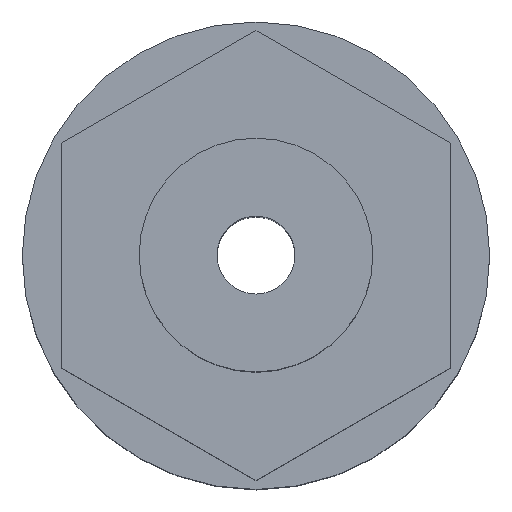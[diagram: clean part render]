
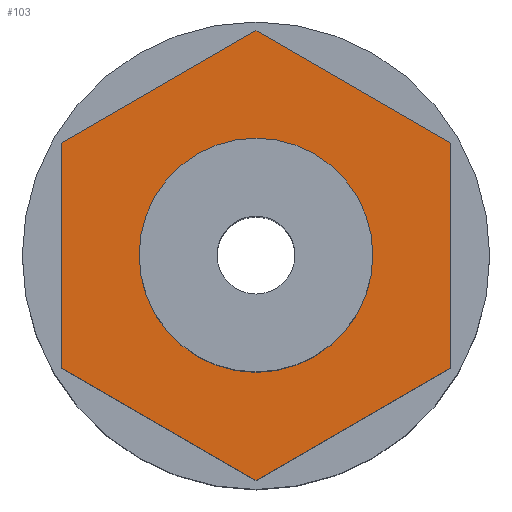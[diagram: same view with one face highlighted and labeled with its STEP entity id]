
A CAD part, top view. The second image highlights one B-rep face of the part: STEP entity #103.
In plain terms, the highlighted planar face has unit normal (0, 0, 1).
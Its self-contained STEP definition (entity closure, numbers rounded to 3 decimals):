
#103=ADVANCED_FACE('NONE',(#215,#216),#217,.T.);
#215=FACE_OUTER_BOUND('',#334,.T.);
#216=FACE_BOUND('',#335,.T.);
#217=PLANE('',#336);
#334=EDGE_LOOP('',(#565,#566,#567,#568,#569,#570));
#335=EDGE_LOOP('',(#571,#572));
#336=AXIS2_PLACEMENT_3D('',#573,#574,#575);
#565=ORIENTED_EDGE('',*,*,#725,.T.);
#566=ORIENTED_EDGE('',*,*,#729,.T.);
#567=ORIENTED_EDGE('',*,*,#732,.T.);
#568=ORIENTED_EDGE('',*,*,#735,.T.);
#569=ORIENTED_EDGE('',*,*,#738,.T.);
#570=ORIENTED_EDGE('',*,*,#740,.T.);
#571=ORIENTED_EDGE('',*,*,#742,.F.);
#572=ORIENTED_EDGE('',*,*,#743,.F.);
#573=CARTESIAN_POINT('',(0.,0.,0.));
#574=DIRECTION('',(0.0,0.0,1.0));
#575=DIRECTION('',(1.0,-0.0,0.0));
#725=EDGE_CURVE('NONE',#867,#865,#868,.T.);
#729=EDGE_CURVE('NONE',#865,#871,#873,.T.);
#732=EDGE_CURVE('NONE',#871,#875,#877,.T.);
#735=EDGE_CURVE('NONE',#875,#879,#881,.T.);
#738=EDGE_CURVE('NONE',#879,#883,#885,.T.);
#740=EDGE_CURVE('NONE',#883,#867,#887,.T.);
#742=EDGE_CURVE('NONE',#889,#890,#891,.T.);
#743=EDGE_CURVE('NONE',#890,#889,#892,.T.);
#865=VERTEX_POINT('NONE',#1052);
#867=VERTEX_POINT('NONE',#1055);
#868=LINE('',#1056,#1057);
#871=VERTEX_POINT('NONE',#1061);
#873=LINE('',#1064,#1065);
#875=VERTEX_POINT('NONE',#1067);
#877=LINE('',#1070,#1071);
#879=VERTEX_POINT('NONE',#1073);
#881=LINE('',#1076,#1077);
#883=VERTEX_POINT('NONE',#1079);
#885=LINE('',#1082,#1083);
#887=LINE('',#1085,#1086);
#889=VERTEX_POINT('NONE',#1088);
#890=VERTEX_POINT('NONE',#1089);
#891=CIRCLE('',#1090,1.5);
#892=CIRCLE('',#1091,1.5);
#1052=CARTESIAN_POINT('',(2.5,-1.443,0.));
#1055=CARTESIAN_POINT('',(0.,-2.887,0.));
#1056=CARTESIAN_POINT('',(0.,-2.887,0.));
#1057=VECTOR('',#1219,1000.0);
#1061=CARTESIAN_POINT('',(2.5,1.443,0.));
#1064=CARTESIAN_POINT('',(2.5,-1.443,0.));
#1065=VECTOR('',#1222,1000.0);
#1067=CARTESIAN_POINT('',(0.,2.887,0.));
#1070=CARTESIAN_POINT('',(2.5,1.443,0.));
#1071=VECTOR('',#1224,1000.0);
#1073=CARTESIAN_POINT('',(-2.5,1.443,0.));
#1076=CARTESIAN_POINT('',(0.,2.887,0.));
#1077=VECTOR('',#1226,1000.0);
#1079=CARTESIAN_POINT('',(-2.5,-1.443,0.));
#1082=CARTESIAN_POINT('',(-2.5,1.443,0.));
#1083=VECTOR('',#1228,1000.0);
#1085=CARTESIAN_POINT('',(-2.5,-1.443,0.));
#1086=VECTOR('',#1229,1000.0);
#1088=CARTESIAN_POINT('',(0.,-1.5,0.));
#1089=CARTESIAN_POINT('',(0.,1.5,0.));
#1090=AXIS2_PLACEMENT_3D('',#1230,#1231,#1232);
#1091=AXIS2_PLACEMENT_3D('',#1233,#1234,#1235);
#1219=DIRECTION('',(0.866,0.5,0.0));
#1222=DIRECTION('',(0.,1.0,0.0));
#1224=DIRECTION('',(-0.866,0.5,0.0));
#1226=DIRECTION('',(-0.866,-0.5,0.0));
#1228=DIRECTION('',(0.,-1.0,0.0));
#1229=DIRECTION('',(0.866,-0.5,0.0));
#1230=CARTESIAN_POINT('',(0.0,0.0,0.));
#1231=DIRECTION('',(0.0,0.0,1.0));
#1232=DIRECTION('',(0.,-1.0,0.0));
#1233=CARTESIAN_POINT('',(0.0,0.0,0.));
#1234=DIRECTION('',(0.0,0.0,1.0));
#1235=DIRECTION('',(0.,-1.0,0.0));
